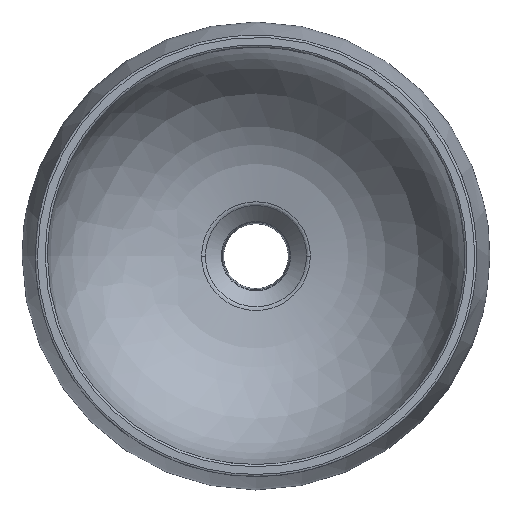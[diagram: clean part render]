
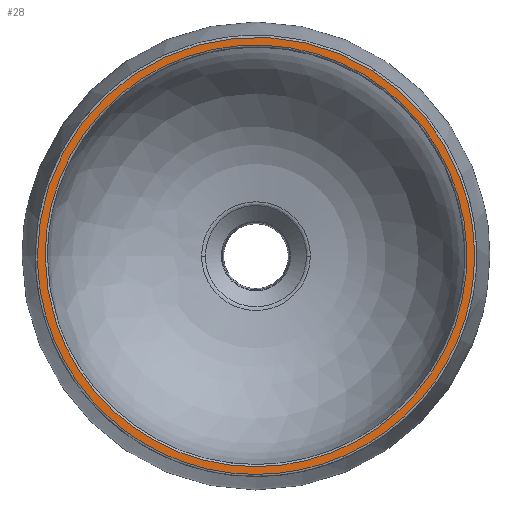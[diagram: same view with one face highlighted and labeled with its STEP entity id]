
A CAD part, top view. The second image highlights one B-rep face of the part: STEP entity #28.
In plain terms, the highlighted planar face has unit normal (0, 0, 1).
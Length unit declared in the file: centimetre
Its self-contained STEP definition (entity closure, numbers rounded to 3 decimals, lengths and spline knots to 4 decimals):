
#28=ADVANCED_FACE('',(#53,#38),#308,.T.);
#38=FACE_BOUND('',#78,.T.);
#53=FACE_OUTER_BOUND('',#77,.T.);
#77=EDGE_LOOP('',(#142));
#78=EDGE_LOOP('',(#143));
#142=ORIENTED_EDGE('',*,*,#203,.F.);
#143=ORIENTED_EDGE('',*,*,#206,.F.);
#203=EDGE_CURVE('',#278,#278,#249,.T.);
#206=EDGE_CURVE('',#279,#279,#252,.T.);
#249=(
BOUNDED_CURVE()
B_SPLINE_CURVE(3,(#3192,#3193,#3194,#3195,#3196,#3197,#3198,#3199,#3200,
#3201,#3202,#3203,#3204,#3205,#3206,#3207,#3208,#3209,#3210,#3211,#3212,
#3213,#3214,#3215,#3216,#3217,#3218,#3219,#3220,#3221,#3222,#3223,#3224,
#3225,#3226,#3227,#3228,#3229,#3230,#3231,#3232,#3233),.UNSPECIFIED.,.T.,
 .F.)
B_SPLINE_CURVE_WITH_KNOTS((4,1,1,1,1,1,1,1,1,1,1,1,1,1,1,1,1,1,1,1,1,1,
1,1,1,1,1,1,1,1,1,1,1,1,1,1,1,1,1,4),(0.,36.5059,62.0606,
87.6153,124.1222,160.6291,197.1359,233.6427,
270.1503,288.4035,306.6567,324.9102,343.1637,
361.4171,379.6706,430.7804,449.0334,467.2863,
485.5393,503.7922,529.3469,542.1243,554.9016,
573.1551,591.4085,627.9155,646.1689,664.4222,
682.6756,700.929,737.4367,755.6899,773.943,
792.1965,810.4501,828.7035,846.9569,898.0667,
916.3197,934.5727),.UNSPECIFIED.)
CURVE()
GEOMETRIC_REPRESENTATION_ITEM()
RATIONAL_B_SPLINE_CURVE((1.,1.,1.,1.,1.,1.,1.,1.,1.,
1.,1.,1.,1.,1.,1.,1.,1.,1.,
1.,1.,1.,1.,1.,1.,1.,1.,1.,
1.,1.,1.,1.,1.,1.,1.,1.,
1.,1.,1.,1.,1.,1.,1.))
REPRESENTATION_ITEM('')
);
#252=(
BOUNDED_CURVE()
B_SPLINE_CURVE(3,(#3265,#3266,#3267,#3268,#3269,#3270,#3271,#3272,#3273,
#3274,#3275,#3276,#3277,#3278,#3279,#3280,#3281,#3282,#3283,#3284,#3285,
#3286,#3287,#3288,#3289,#3290,#3291,#3292),.UNSPECIFIED.,.T.,.F.)
B_SPLINE_CURVE_WITH_KNOTS((4,1,1,1,1,1,1,1,1,1,1,1,1,1,1,1,1,1,1,1,1,1,
1,1,1,4),(0.,49.3017,80.9963,119.7339,158.4699,
197.2087,235.9461,274.6821,313.4203,352.158,
390.8956,412.024,431.3929,450.7609,489.499,
510.6283,549.3656,588.1037,626.8415,665.5776,
704.3149,743.053,781.7893,820.5266,852.2219,
901.5231),.UNSPECIFIED.)
CURVE()
GEOMETRIC_REPRESENTATION_ITEM()
RATIONAL_B_SPLINE_CURVE((1.,1.,1.,1.,1.,1.,
1.,1.,1.,1.,1.,1.,1.,
1.,1.,1.,1.,1.,1.,1.,1.,
1.,1.,1.,1.,1.,1.,1.))
REPRESENTATION_ITEM('')
);
#278=VERTEX_POINT('',#2548);
#279=VERTEX_POINT('',#2549);
#308=PLANE('',#399);
#399=AXIS2_PLACEMENT_3D('',#2033,#405,$);
#405=DIRECTION('',(0.,0.,1.));
#2033=CARTESIAN_POINT('',(169.2171,-108.3504,118.8));
#2548=CARTESIAN_POINT('',(173.4767,44.657,118.8));
#2549=CARTESIAN_POINT('',(178.7397,44.6569,118.8));
#3192=CARTESIAN_POINT('',(173.4767,44.657,118.8));
#3193=CARTESIAN_POINT('',(173.4734,56.8264,118.8));
#3194=CARTESIAN_POINT('',(176.0331,77.5097,118.8));
#3195=CARTESIAN_POINT('',(185.5622,105.2321,118.8));
#3196=CARTESIAN_POINT('',(199.7026,130.9089,118.8));
#3197=CARTESIAN_POINT('',(221.3133,155.9841,118.8));
#3198=CARTESIAN_POINT('',(251.3963,177.1599,118.8));
#3199=CARTESIAN_POINT('',(285.7072,190.3972,118.8));
#3200=CARTESIAN_POINT('',(322.2203,194.9063,118.8));
#3201=CARTESIAN_POINT('',(352.6354,191.1421,118.8));
#3202=CARTESIAN_POINT('',(375.8863,183.7859,118.8));
#3203=CARTESIAN_POINT('',(392.5101,176.168,118.8));
#3204=CARTESIAN_POINT('',(408.0751,166.5653,118.8));
#3205=CARTESIAN_POINT('',(422.3631,155.1512,118.8));
#3206=CARTESIAN_POINT('',(435.1277,142.0553,118.8));
#3207=CARTESIAN_POINT('',(452.8538,118.7714,118.8));
#3208=CARTESIAN_POINT('',(464.8678,91.6823,118.8));
#3209=CARTESIAN_POINT('',(470.2041,62.9074,118.8));
#3210=CARTESIAN_POINT('',(471.3346,44.6586,118.8));
#3211=CARTESIAN_POINT('',(470.2079,26.4032,118.8));
#3212=CARTESIAN_POINT('',(466.4169,6.0293,118.8));
#3213=CARTESIAN_POINT('',(460.2605,-11.875,118.8));
#3214=CARTESIAN_POINT('',(452.6874,-27.152,118.8));
#3215=CARTESIAN_POINT('',(445.0895,-39.639,118.8));
#3216=CARTESIAN_POINT('',(435.1324,-52.7436,118.8));
#3217=CARTESIAN_POINT('',(418.1038,-70.1983,118.8));
#3218=CARTESIAN_POINT('',(398.0498,-84.3085,118.8));
#3219=CARTESIAN_POINT('',(375.8876,-94.4761,118.8));
#3220=CARTESIAN_POINT('',(358.4477,-99.9843,118.8));
#3221=CARTESIAN_POINT('',(340.4713,-103.335,118.8));
#3222=CARTESIAN_POINT('',(316.1324,-104.8463,118.8));
#3223=CARTESIAN_POINT('',(291.7968,-101.823,118.8));
#3224=CARTESIAN_POINT('',(268.5522,-94.4731,118.8));
#3225=CARTESIAN_POINT('',(251.9242,-86.8539,118.8));
#3226=CARTESIAN_POINT('',(236.3593,-77.2513,118.8));
#3227=CARTESIAN_POINT('',(222.0712,-65.8372,118.8));
#3228=CARTESIAN_POINT('',(209.3066,-52.7413,118.8));
#3229=CARTESIAN_POINT('',(191.5804,-29.4575,118.8));
#3230=CARTESIAN_POINT('',(179.5661,-2.3685,118.8));
#3231=CARTESIAN_POINT('',(174.2315,26.4072,118.8));
#3232=CARTESIAN_POINT('',(173.4733,38.5709,118.8));
#3233=CARTESIAN_POINT('',(173.4767,44.657,118.8));
#3265=CARTESIAN_POINT('',(178.7397,44.6569,118.8));
#3266=CARTESIAN_POINT('',(178.7274,28.2201,118.8));
#3267=CARTESIAN_POINT('',(183.4381,1.2349,118.8));
#3268=CARTESIAN_POINT('',(201.0421,-34.8603,118.8));
#3269=CARTESIAN_POINT('',(224.6794,-62.9602,118.8));
#3270=CARTESIAN_POINT('',(256.9192,-85.0745,118.8));
#3271=CARTESIAN_POINT('',(293.8838,-97.7923,118.8));
#3272=CARTESIAN_POINT('',(332.9016,-100.1813,118.8));
#3273=CARTESIAN_POINT('',(371.1513,-92.0988,118.8));
#3274=CARTESIAN_POINT('',(405.8441,-74.0832,118.8));
#3275=CARTESIAN_POINT('',(434.4933,-47.4884,118.8));
#3276=CARTESIAN_POINT('',(451.8852,-19.2397,118.8));
#3277=CARTESIAN_POINT('',(460.7993,5.6953,118.8));
#3278=CARTESIAN_POINT('',(464.8185,25.2888,118.8));
#3279=CARTESIAN_POINT('',(466.5721,51.1132,118.8));
#3280=CARTESIAN_POINT('',(462.9814,77.5237,118.8));
#3281=CARTESIAN_POINT('',(451.8826,108.5546,118.8));
#3282=CARTESIAN_POINT('',(434.4932,136.8028,118.8));
#3283=CARTESIAN_POINT('',(405.8444,163.4002,118.8));
#3284=CARTESIAN_POINT('',(371.1492,181.4094,118.8));
#3285=CARTESIAN_POINT('',(332.8999,189.4998,118.8));
#3286=CARTESIAN_POINT('',(293.8842,187.1034,118.8));
#3287=CARTESIAN_POINT('',(256.9179,174.3901,118.8));
#3288=CARTESIAN_POINT('',(224.6814,152.2717,118.8));
#3289=CARTESIAN_POINT('',(201.0403,124.1745,118.8));
#3290=CARTESIAN_POINT('',(183.4386,88.0787,118.8));
#3291=CARTESIAN_POINT('',(178.7262,61.0935,118.8));
#3292=CARTESIAN_POINT('',(178.7397,44.6569,118.8));
